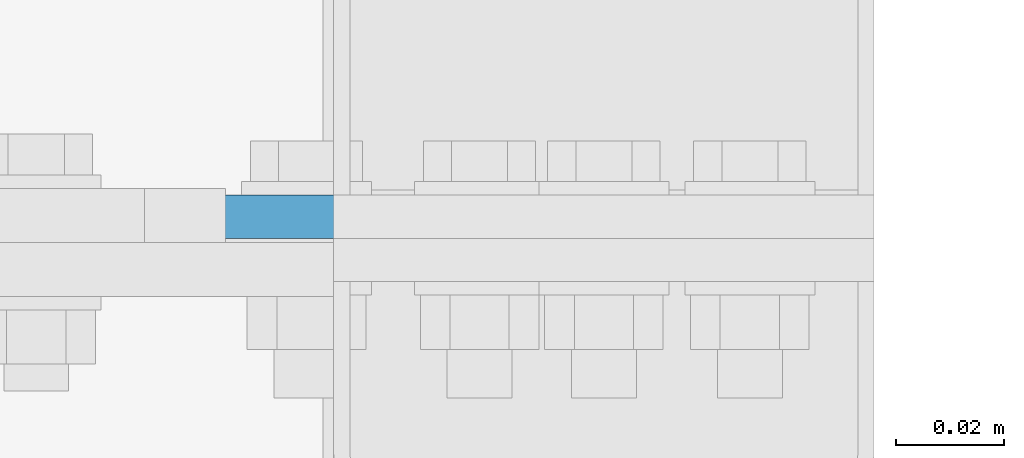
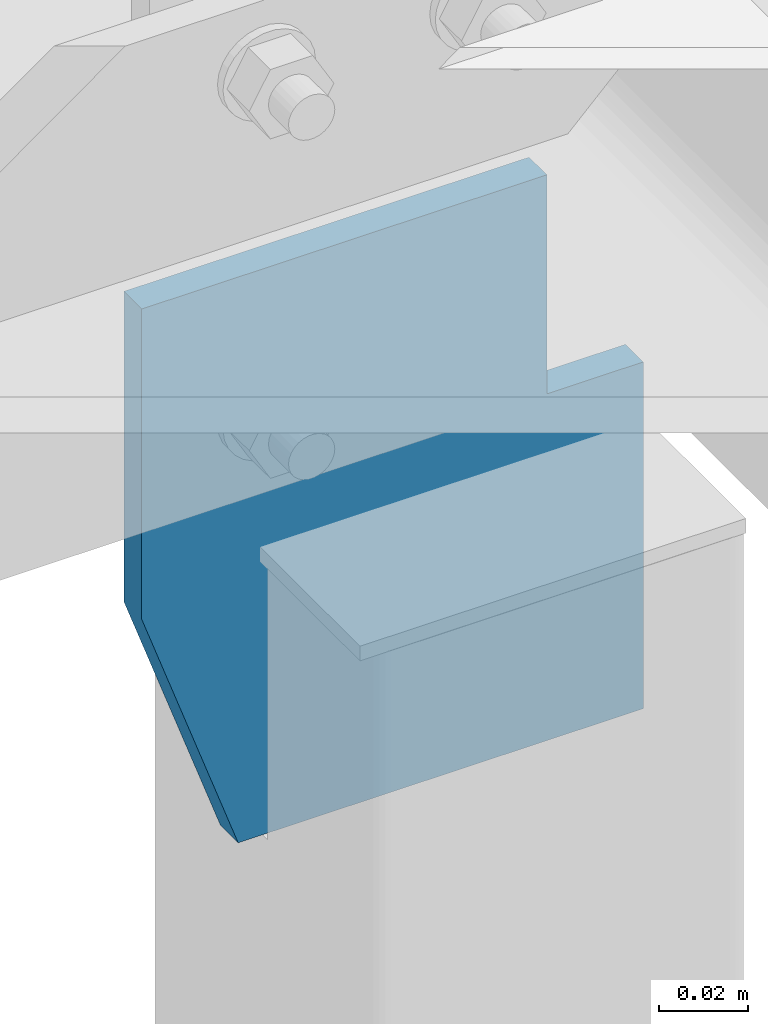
# One storey, part 171 of 271: 1 plate, 1 element without a shape of its own.
"""IFC2X3 building model written with IfcOpenShell, lengths in millimetres."""

from ifc_helpers import new_model, si_unit, frame, origin_with_axes, place, context, subcontext, project, spatial, polyline, outline, extrude, material, type_object, element, aggregate, save


model = new_model("IFC2X3")

# Units and contexts
model_context = context("Model", 3, precision=1e-05, world=origin_with_axes())
body_context = subcontext(model_context, "Body", "Model", "MODEL_VIEW")
ifc_project = project(units=[si_unit("LENGTHUNIT", "METRE", prefix="MILLI"), si_unit("AREAUNIT", "SQUARE_METRE"), si_unit("VOLUMEUNIT", "CUBIC_METRE"), si_unit("MASSUNIT", "GRAM", prefix="KILO"), si_unit("TIMEUNIT", "SECOND"), si_unit("PLANEANGLEUNIT", "RADIAN"), si_unit("SOLIDANGLEUNIT", "STERADIAN"), si_unit("THERMODYNAMICTEMPERATUREUNIT", "DEGREE_CELSIUS"), si_unit("LUMINOUSINTENSITYUNIT", "LUMEN")], contexts=[model_context])

# Site, building, storey
site_placement = place(None, origin_with_axes())
site = spatial("IfcSite", under=ifc_project, at=site_placement, Name="Undefined", CompositionType="ELEMENT")
building_placement = place(site_placement, origin_with_axes())
building = spatial("IfcBuilding", under=site, at=building_placement, Name="Undefined", CompositionType="ELEMENT")
storey_placement = place(building_placement, origin_with_axes())
storey = spatial("IfcBuildingStorey", under=building, at=storey_placement, Name="Undefined", CompositionType="ELEMENT", Elevation=0.0)

# Assembly, plate
assembly_placement = place(storey_placement, origin_with_axes())
assembly = element("IfcElementAssembly", 1, at=assembly_placement, inside=storey, AssemblyPlace="NOTDEFINED", PredefinedType="RIGID_FRAME")
ifc_material = material(Name="STEEL/S355JR")
plate_type = type_object("IfcPlateType", Name="BL8*130", PredefinedType="NOTDEFINED")
plate_placement = place(assembly_placement, frame((12576.3756870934, 2799.05211980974, 1196.8499999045), z_axis=(0.0, 1.0, 0.0), x_axis=(0.0, 0.0, 1.0)))
plate = element("IfcPlate", 2, at=plate_placement, type_object=plate_type, material=ifc_material, Name="BLACHA", ObjectType="BL8*130", context=body_context, shape_type="SweptSolid", body=[
    extrude(outline(polyline([(0.0, 25.0), (70.0, -8.66862137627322e-13), (155.0, -2.06057393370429e-12), (155.0, 105.0), (94.9999999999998, 105.0), (94.9999999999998, 130.0), (-3.5527136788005e-14, 130.0), (0.0, 25.0)])), frame((0.0, 0.0, -4.0), z_axis=(0.0, 0.0, 1.0), x_axis=(1.0, 0.0, 0.0)), (0.0, 0.0, 1.0), 8.0),
])
aggregate(assembly, [plate])

save(model, "model.ifc")
